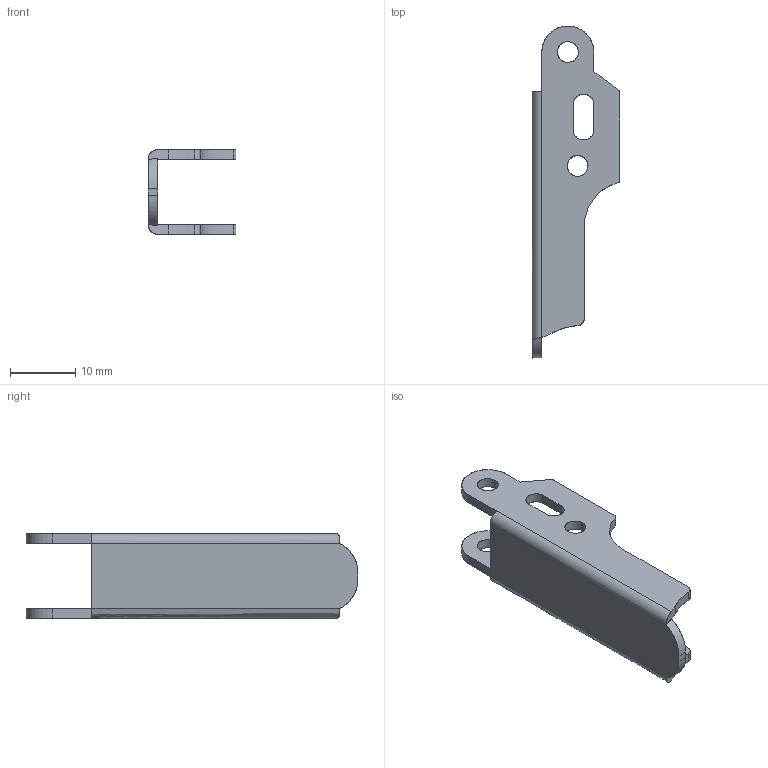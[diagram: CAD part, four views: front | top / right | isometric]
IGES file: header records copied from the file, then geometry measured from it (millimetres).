
Start section: SolidWorks IGES FILE using analytic representation for surfaces
Global section: file name: C:\Documents and Settings\lecoutey\Bureau\GP 538\538.010.00.IGS; native system: SolidWorks 2004 by SolidWorks Corporation; preprocessor: Version 5.3; author: lecoutey; date: 050329.151505; units: millimetre
Bounding box: 13.5 x 51 x 13 mm (x, y, z)
Surface area: 2823 mm2 (no closed solid volume)
Topology: 0 solids, 0 shells, 52 faces, 838 edges, 838 vertices
Faces by surface type: revolution 30, bspline 22
